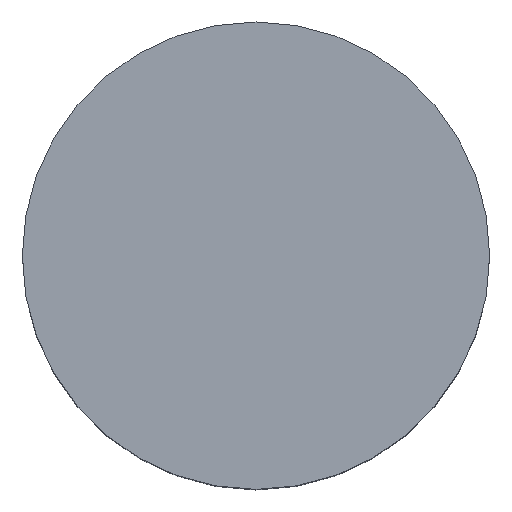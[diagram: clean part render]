
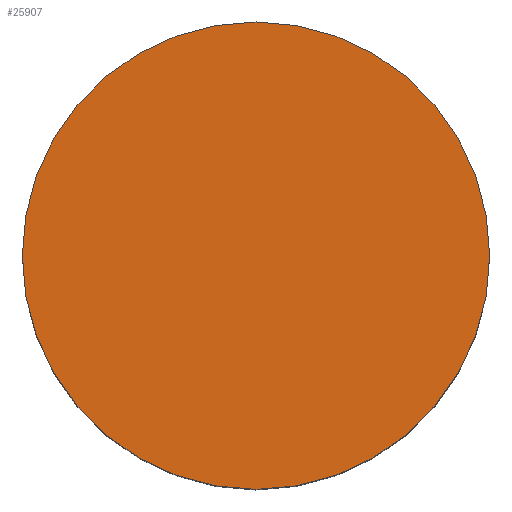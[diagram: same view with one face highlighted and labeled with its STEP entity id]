
A CAD part, top view. The second image highlights one B-rep face of the part: STEP entity #25907.
In plain terms, the highlighted planar face has unit normal (0, 0, 1).
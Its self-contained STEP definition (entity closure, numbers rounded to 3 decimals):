
#86 = VERTEX_POINT ( 'NONE', #20571 ) ;
#1214 = CIRCLE ( 'NONE', #31332, 29.3 ) ;
#1422 = CARTESIAN_POINT ( 'NONE',  ( 0., 0., 43.2 ) ) ;
#1540 = ORIENTED_EDGE ( 'NONE', *, *, #24332, .T. ) ;
#2843 = DIRECTION ( 'NONE',  ( 1., 0., 0. ) ) ;
#4818 = DIRECTION ( 'NONE',  ( -1., 0., 0. ) ) ;
#6835 = VERTEX_POINT ( 'NONE', #28722 ) ;
#7590 = PLANE ( 'NONE',  #10606 ) ;
#7605 = ORIENTED_EDGE ( 'NONE', *, *, #35039, .T. ) ;
#10606 = AXIS2_PLACEMENT_3D ( 'NONE', #1422, #10774, #4818 ) ;
#10757 = DIRECTION ( 'NONE',  ( 0., 0., 1. ) ) ;
#10774 = DIRECTION ( 'NONE',  ( 0., 0., -1. ) ) ;
#12940 = CIRCLE ( 'NONE', #32801, 29.3 ) ;
#14743 = CARTESIAN_POINT ( 'NONE',  ( 0., 0., 43.2 ) ) ;
#18206 = DIRECTION ( 'NONE',  ( 0., 0., 1. ) ) ;
#20571 = CARTESIAN_POINT ( 'NONE',  ( 29.3, 0., 43.2 ) ) ;
#24332 = EDGE_CURVE ( 'NONE', #86, #6835, #12940, .T. ) ;
#25907 = ADVANCED_FACE ( 'NONE', ( #35508 ), #7590, .F. ) ;
#28722 = CARTESIAN_POINT ( 'NONE',  ( -29.3, 0., 43.2 ) ) ;
#31332 = AXIS2_PLACEMENT_3D ( 'NONE', #38300, #10757, #31895 ) ;
#31895 = DIRECTION ( 'NONE',  ( 1., 0., 0. ) ) ;
#32801 = AXIS2_PLACEMENT_3D ( 'NONE', #14743, #18206, #2843 ) ;
#35039 = EDGE_CURVE ( 'NONE', #6835, #86, #1214, .T. ) ;
#35508 = FACE_OUTER_BOUND ( 'NONE', #36776, .T. ) ;
#36776 = EDGE_LOOP ( 'NONE', ( #7605, #1540 ) ) ;
#38300 = CARTESIAN_POINT ( 'NONE',  ( 0., 0., 43.2 ) ) ;
